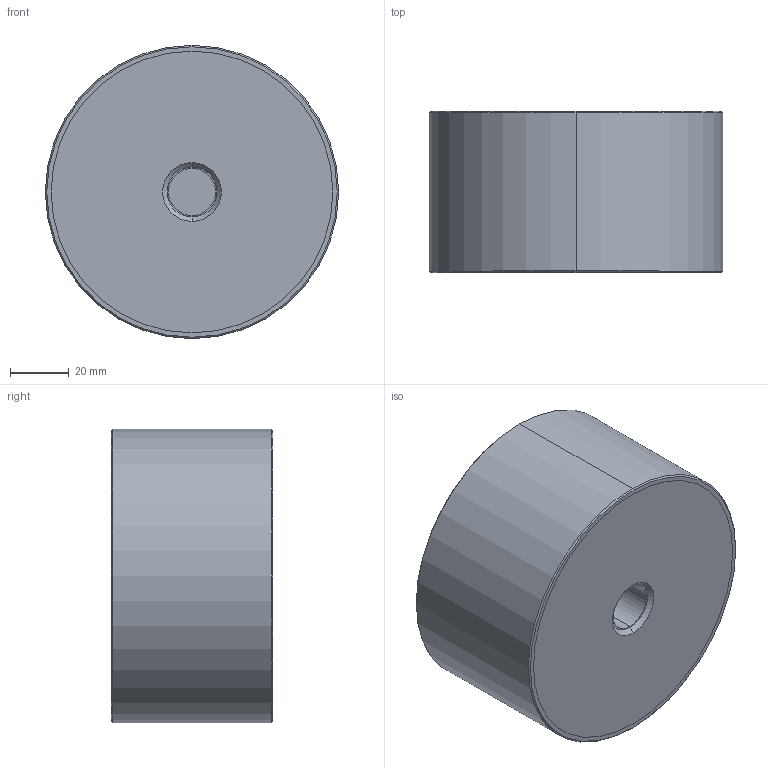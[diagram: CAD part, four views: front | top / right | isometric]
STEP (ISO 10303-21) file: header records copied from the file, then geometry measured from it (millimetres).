
FILE_DESCRIPTION (( 'STEP AP203' ), '1' );
FILE_NAME ('61080.W0902.step', '2018-07-16T20:47:17', ( '' ), ( '' ), 'SwSTEP 2.0', 'SolidWorks 2017', '' );
FILE_SCHEMA (( 'CONFIG_CONTROL_DESIGN' ));
Length unit declared in the file: millimetre
Products named in the file (4): Part1_61080.W0902; Part2_61080.W0902; Part3_61080.W0902; 61080.W0902
Assembly tree (3 placements, depth 2):
  61080.W0902
    Part1_61080.W0902
    Part2_61080.W0902
    Part3_61080.W0902
Bounding box: 100 x 55 x 100 mm (x, y, z)
Volume: 425251.7 mm3; surface area: 64186.5 mm2
Topology: 3 solids, 3 shells, 32 faces, 62 edges, 40 vertices
Faces by surface type: cylinder 14, plane 10, cone 8
Entity records: 1256 total; most frequent: DIRECTION 178, CARTESIAN_POINT 140, ORIENTED_EDGE 124, AXIS2_PLACEMENT_3D 78, EDGE_CURVE 62, CIRCLE 40, VERTEX_POINT 40, EDGE_LOOP 40
